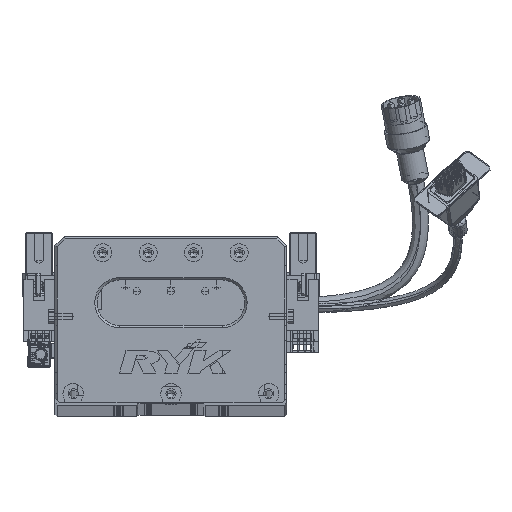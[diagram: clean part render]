
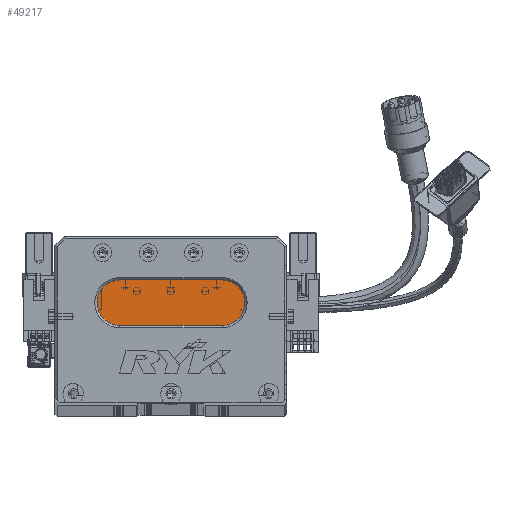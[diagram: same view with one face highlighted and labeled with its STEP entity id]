
A CAD part, top view. The second image highlights one B-rep face of the part: STEP entity #49217.
In plain terms, the highlighted planar face has unit normal (0, 0, 1) as drawn and (0, 0, -1) by its records, which use the part's own axes.
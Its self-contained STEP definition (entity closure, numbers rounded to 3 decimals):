
#844 = CARTESIAN_POINT ( 'NONE',  ( 73.5, 54., 13. ) ) ;
#2621 = DIRECTION ( 'NONE',  ( 0., 0., -1. ) ) ;
#2660 = EDGE_CURVE ( 'NONE', #23711, #29498, #87210, .T. ) ;
#3395 = CARTESIAN_POINT ( 'NONE',  ( 28.5, 44., 13. ) ) ;
#4594 = DIRECTION ( 'NONE',  ( -1., 0., 0. ) ) ;
#6909 = CIRCLE ( 'NONE', #58411, 10. ) ;
#8710 = EDGE_CURVE ( 'NONE', #38874, #74957, #6909, .T. ) ;
#13349 = LINE ( 'NONE', #89254, #67521 ) ;
#16603 = CARTESIAN_POINT ( 'NONE',  ( 18.5, 44., 13. ) ) ;
#22442 = DIRECTION ( 'NONE',  ( 0., 0., -1. ) ) ;
#23711 = VERTEX_POINT ( 'NONE', #50932 ) ;
#26175 = LINE ( 'NONE', #844, #43623 ) ;
#26464 = ORIENTED_EDGE ( 'NONE', *, *, #8710, .T. ) ;
#27143 = CARTESIAN_POINT ( 'NONE',  ( 28.5, 54., 13. ) ) ;
#29498 = VERTEX_POINT ( 'NONE', #16603 ) ;
#31579 = DIRECTION ( 'NONE',  ( 0., 0., -1. ) ) ;
#33075 = AXIS2_PLACEMENT_3D ( 'NONE', #3395, #57663, #65504 ) ;
#34085 = FACE_OUTER_BOUND ( 'NONE', #64177, .T. ) ;
#36732 = DIRECTION ( 'NONE',  ( -1., 0., 0. ) ) ;
#36786 = CARTESIAN_POINT ( 'NONE',  ( 73.5, 54., 13. ) ) ;
#38874 = VERTEX_POINT ( 'NONE', #36786 ) ;
#41991 = EDGE_CURVE ( 'NONE', #60814, #38874, #26175, .T. ) ;
#43623 = VECTOR ( 'NONE', #56317, 1000. ) ;
#47673 = ORIENTED_EDGE ( 'NONE', *, *, #73746, .T. ) ;
#47701 = DIRECTION ( 'NONE',  ( -1., 0., 0. ) ) ;
#49217 = ADVANCED_FACE ( 'NONE', ( #34085 ), #60041, .T. ) ;
#50932 = CARTESIAN_POINT ( 'NONE',  ( 28.5, 34., 13. ) ) ;
#56317 = DIRECTION ( 'NONE',  ( 1., 0., 0. ) ) ;
#57663 = DIRECTION ( 'NONE',  ( 0., 0., -1. ) ) ;
#58411 = AXIS2_PLACEMENT_3D ( 'NONE', #77306, #22442, #36732 ) ;
#60041 = PLANE ( 'NONE',  #72048 ) ;
#60627 = AXIS2_PLACEMENT_3D ( 'NONE', #65954, #2621, #65336 ) ;
#60814 = VERTEX_POINT ( 'NONE', #27143 ) ;
#61136 = CIRCLE ( 'NONE', #60627, 10. ) ;
#64177 = EDGE_LOOP ( 'NONE', ( #26464, #69993, #88710, #47673, #66894 ) ) ;
#64583 = EDGE_CURVE ( 'NONE', #74957, #23711, #13349, .T. ) ;
#65336 = DIRECTION ( 'NONE',  ( -1., 0., 0. ) ) ;
#65504 = DIRECTION ( 'NONE',  ( -1., 0., 0. ) ) ;
#65954 = CARTESIAN_POINT ( 'NONE',  ( 28.5, 44., 13. ) ) ;
#66894 = ORIENTED_EDGE ( 'NONE', *, *, #41991, .T. ) ;
#67521 = VECTOR ( 'NONE', #47701, 1000. ) ;
#69993 = ORIENTED_EDGE ( 'NONE', *, *, #64583, .T. ) ;
#72048 = AXIS2_PLACEMENT_3D ( 'NONE', #80344, #31579, #4594 ) ;
#73746 = EDGE_CURVE ( 'NONE', #29498, #60814, #61136, .T. ) ;
#74957 = VERTEX_POINT ( 'NONE', #75982 ) ;
#75982 = CARTESIAN_POINT ( 'NONE',  ( 73.5, 34., 13. ) ) ;
#77306 = CARTESIAN_POINT ( 'NONE',  ( 73.5, 44., 13. ) ) ;
#80344 = CARTESIAN_POINT ( 'NONE',  ( 73.5, 44., 13. ) ) ;
#87210 = CIRCLE ( 'NONE', #33075, 10. ) ;
#88710 = ORIENTED_EDGE ( 'NONE', *, *, #2660, .T. ) ;
#89254 = CARTESIAN_POINT ( 'NONE',  ( 73.5, 34., 13. ) ) ;
